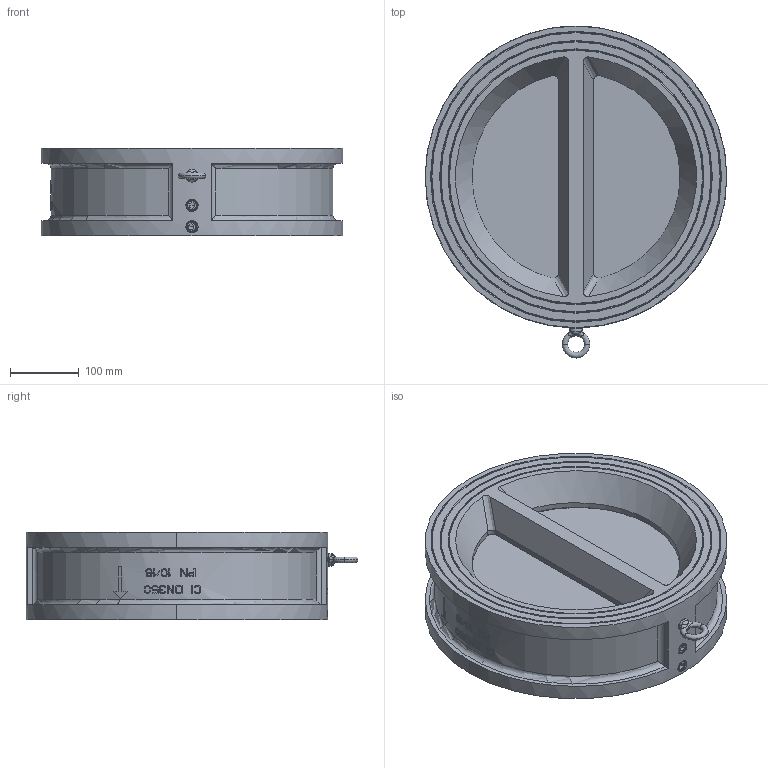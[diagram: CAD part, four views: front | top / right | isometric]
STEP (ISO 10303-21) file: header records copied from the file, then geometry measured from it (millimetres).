
FILE_DESCRIPTION((''),'2;1');
FILE_NAME('ASM0001_ASM','2014-07-07T',('Administrator'),(''),'PRO/ENGINEER BY PARAMETRIC TECHNOLOGY CORPORATION, 2010370','PRO/ENGINEER BY PARAMETRIC TECHNOLOGY CORPORATION, 2010370','');
FILE_SCHEMA(('CONFIG_CONTROL_DESIGN'));
Products named in the file (10): 350-TI; 14; 14-CUN-DISC; DN35500; 10-14; M16-1; 16; 33355; M12-DIAOHUAN; ASM0001_ASM
Assembly tree (20 placements, depth 2):
  ASM0001_ASM
    350-TI
    14  x2
    14-CUN-DISC  x2
    DN35500  x2
    10-14  x3
    M16-1  x4
    16  x3
    33355  x2
    M12-DIAOHUAN
Bounding box: 438 x 482 x 127 mm (x, y, z)
Volume: 8188313.6 mm3; surface area: 863935.7 mm2
Topology: 20 solids, 20 shells, 1098 faces, 3718 edges, 2740 vertices
Faces by surface type: plane 707, cylinder 195, bspline 108, cone 58, torus 30
Entity records: 44835 total; most frequent: CARTESIAN_POINT 22896, ORIENTED_EDGE 4330, DIRECTION 3793, EDGE_CURVE 2165, VECTOR 1493, LINE 1493, VERTEX_POINT 1437, AXIS2_PLACEMENT_3D 1150
